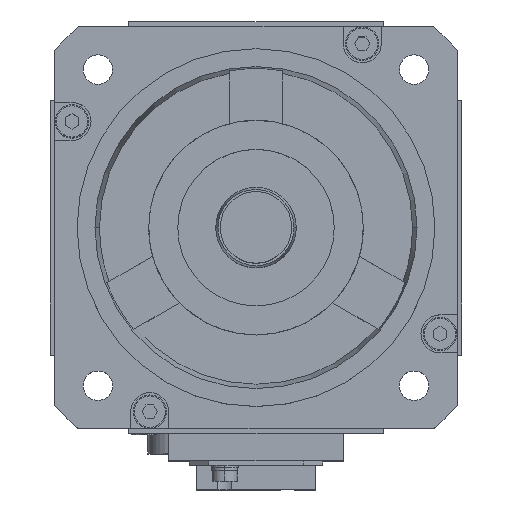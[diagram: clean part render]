
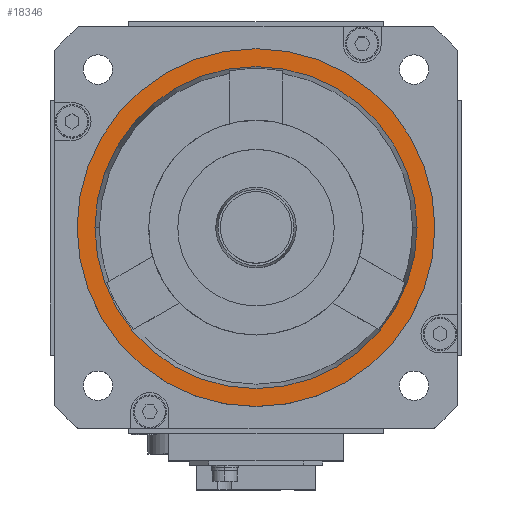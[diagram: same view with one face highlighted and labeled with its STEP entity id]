
A CAD part, top view. The second image highlights one B-rep face of the part: STEP entity #18346.
In plain terms, the highlighted planar face has unit normal (0, 0, 1).
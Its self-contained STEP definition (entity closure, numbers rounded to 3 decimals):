
#15028 = DIRECTION ( 'NONE',  ( 1., 0., 0. ) ) ;
#15029 = DIRECTION ( 'NONE',  ( 0., 0., 1. ) ) ;
#15030 = CARTESIAN_POINT ( 'NONE',  ( 0., 0., 5. ) ) ;
#15031 = AXIS2_PLACEMENT_3D ( 'NONE', #15030, #15029, #15028 ) ;
#15037 = CIRCLE ( 'NONE', #15031, 36. ) ;
#15492 = CARTESIAN_POINT ( 'NONE',  ( 40., 0., 5. ) ) ;
#15504 = CARTESIAN_POINT ( 'NONE',  ( -40., 0., 5. ) ) ;
#15666 = DIRECTION ( 'NONE',  ( 1., 0., 0. ) ) ;
#15667 = DIRECTION ( 'NONE',  ( 0., 0., 1. ) ) ;
#15668 = CARTESIAN_POINT ( 'NONE',  ( 0., 0., 5. ) ) ;
#15669 = AXIS2_PLACEMENT_3D ( 'NONE', #15668, #15667, #15666 ) ;
#15670 = CIRCLE ( 'NONE', #15669, 40. ) ;
#16118 = DIRECTION ( 'NONE',  ( 1., 0., 0. ) ) ;
#16119 = DIRECTION ( 'NONE',  ( 0., 0., 1. ) ) ;
#16120 = CARTESIAN_POINT ( 'NONE',  ( 0., 0., 5. ) ) ;
#16121 = AXIS2_PLACEMENT_3D ( 'NONE', #16120, #16119, #16118 ) ;
#16122 = CIRCLE ( 'NONE', #16121, 40. ) ;
#16145 = DIRECTION ( 'NONE',  ( 1., 0., 0. ) ) ;
#16146 = DIRECTION ( 'NONE',  ( 0., 0., 1. ) ) ;
#16147 = CARTESIAN_POINT ( 'NONE',  ( 0., 0., 5. ) ) ;
#16148 = AXIS2_PLACEMENT_3D ( 'NONE', #16147, #16146, #16145 ) ;
#16149 = PLANE ( 'NONE',  #16148 ) ;
#16151 = FACE_BOUND ( 'NONE', #18520, .T. ) ;
#16152 = FACE_OUTER_BOUND ( 'NONE', #18310, .T. ) ;
#16245 = CARTESIAN_POINT ( 'NONE',  ( 36., 0., 5. ) ) ;
#16286 = CARTESIAN_POINT ( 'NONE',  ( -36., 0., 5. ) ) ;
#16324 = DIRECTION ( 'NONE',  ( 1., 0., 0. ) ) ;
#16325 = DIRECTION ( 'NONE',  ( 0., 0., 1. ) ) ;
#16326 = CARTESIAN_POINT ( 'NONE',  ( 0., 0., 5. ) ) ;
#16327 = AXIS2_PLACEMENT_3D ( 'NONE', #16326, #16325, #16324 ) ;
#16328 = CIRCLE ( 'NONE', #16327, 36. ) ;
#17706 = EDGE_CURVE ( 'NONE', #18403, #18450, #15037, .T. ) ;
#17973 = VERTEX_POINT ( 'NONE', #15504 ) ;
#17978 = VERTEX_POINT ( 'NONE', #15492 ) ;
#18085 = EDGE_CURVE ( 'NONE', #17978, #17973, #15670, .T. ) ;
#18270 = ORIENTED_EDGE ( 'NONE', *, *, #18333, .T. ) ;
#18273 = ORIENTED_EDGE ( 'NONE', *, *, #18085, .T. ) ;
#18310 = EDGE_LOOP ( 'NONE', ( #18270, #18273 ) ) ;
#18333 = EDGE_CURVE ( 'NONE', #17973, #17978, #16122, .T. ) ;
#18346 = ADVANCED_FACE ( 'NONE', ( #16152, #16151 ), #16149, .T. ) ;
#18403 = VERTEX_POINT ( 'NONE', #16245 ) ;
#18450 = VERTEX_POINT ( 'NONE', #16286 ) ;
#18460 = EDGE_CURVE ( 'NONE', #18450, #18403, #16328, .T. ) ;
#18502 = ORIENTED_EDGE ( 'NONE', *, *, #18460, .F. ) ;
#18520 = EDGE_LOOP ( 'NONE', ( #18523, #18502 ) ) ;
#18523 = ORIENTED_EDGE ( 'NONE', *, *, #17706, .F. ) ;
